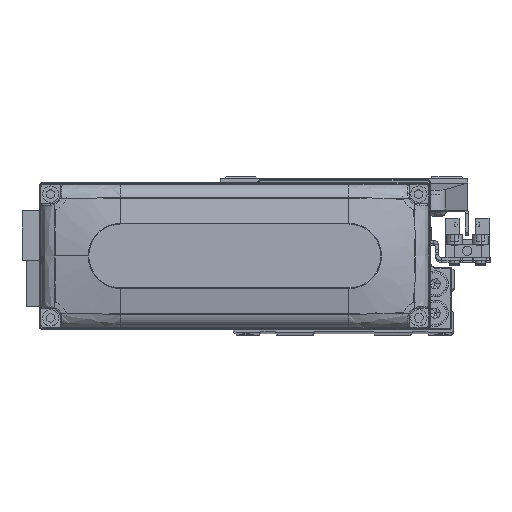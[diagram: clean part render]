
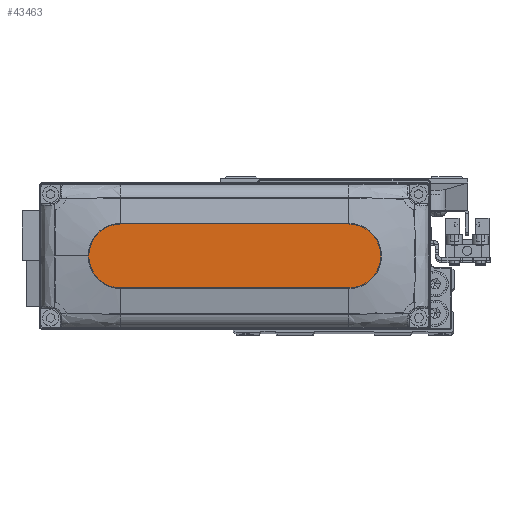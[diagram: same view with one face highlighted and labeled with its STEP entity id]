
A CAD part, top view. The second image highlights one B-rep face of the part: STEP entity #43463.
In plain terms, the highlighted planar face has unit normal (0, 0, 1).
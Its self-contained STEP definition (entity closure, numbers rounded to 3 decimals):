
#599 = EDGE_CURVE ( 'NONE', #39823, #23635, #17552, .T. ) ;
#1151 = VERTEX_POINT ( 'NONE', #40766 ) ;
#2132 = CIRCLE ( 'NONE', #26977, 10. ) ;
#2261 = CARTESIAN_POINT ( 'NONE',  ( -35., 0., 28. ) ) ;
#4608 = LINE ( 'NONE', #18223, #33029 ) ;
#4961 = DIRECTION ( 'NONE',  ( 1., 0., 0. ) ) ;
#8272 = PLANE ( 'NONE',  #23574 ) ;
#8767 = AXIS2_PLACEMENT_3D ( 'NONE', #12133, #25675, #39153 ) ;
#9347 = DIRECTION ( 'NONE',  ( 1., 0., 0. ) ) ;
#11351 = VECTOR ( 'NONE', #26567, 1000. ) ;
#11713 = EDGE_LOOP ( 'NONE', ( #26805, #28004, #35594, #33502, #32164 ) ) ;
#12126 = EDGE_CURVE ( 'NONE', #24757, #33272, #2132, .T. ) ;
#12133 = CARTESIAN_POINT ( 'NONE',  ( 35., 0., 28. ) ) ;
#13041 = CARTESIAN_POINT ( 'NONE',  ( -35., 10., 28. ) ) ;
#15861 = DIRECTION ( 'NONE',  ( 0., 0., 1. ) ) ;
#17550 = AXIS2_PLACEMENT_3D ( 'NONE', #26249, #39724, #9347 ) ;
#17552 = CIRCLE ( 'NONE', #17550, 10. ) ;
#18223 = CARTESIAN_POINT ( 'NONE',  ( -35., -10., 28. ) ) ;
#18266 = EDGE_CURVE ( 'NONE', #23635, #24757, #43366, .T. ) ;
#21856 = CARTESIAN_POINT ( 'NONE',  ( 0., 0., 28. ) ) ;
#23574 = AXIS2_PLACEMENT_3D ( 'NONE', #21856, #35357, #4961 ) ;
#23635 = VERTEX_POINT ( 'NONE', #38336 ) ;
#24187 = EDGE_CURVE ( 'NONE', #1151, #39823, #27936, .T. ) ;
#24653 = CARTESIAN_POINT ( 'NONE',  ( 45., 0., 28. ) ) ;
#24757 = VERTEX_POINT ( 'NONE', #40575 ) ;
#25675 = DIRECTION ( 'NONE',  ( 0., 0., 1. ) ) ;
#26249 = CARTESIAN_POINT ( 'NONE',  ( 35., 0., 28. ) ) ;
#26567 = DIRECTION ( 'NONE',  ( -1., 0., 0. ) ) ;
#26805 = ORIENTED_EDGE ( 'NONE', *, *, #18266, .T. ) ;
#26977 = AXIS2_PLACEMENT_3D ( 'NONE', #2261, #15861, #29339 ) ;
#27936 = CIRCLE ( 'NONE', #8767, 10. ) ;
#28004 = ORIENTED_EDGE ( 'NONE', *, *, #12126, .T. ) ;
#29339 = DIRECTION ( 'NONE',  ( 1., 0., 0. ) ) ;
#31709 = DIRECTION ( 'NONE',  ( 1., 0., 0. ) ) ;
#31780 = EDGE_CURVE ( 'NONE', #33272, #1151, #4608, .T. ) ;
#32164 = ORIENTED_EDGE ( 'NONE', *, *, #599, .T. ) ;
#33029 = VECTOR ( 'NONE', #31709, 1000. ) ;
#33272 = VERTEX_POINT ( 'NONE', #35933 ) ;
#33502 = ORIENTED_EDGE ( 'NONE', *, *, #24187, .T. ) ;
#35357 = DIRECTION ( 'NONE',  ( 0., 0., 1. ) ) ;
#35594 = ORIENTED_EDGE ( 'NONE', *, *, #31780, .T. ) ;
#35933 = CARTESIAN_POINT ( 'NONE',  ( -35., -10., 28. ) ) ;
#38336 = CARTESIAN_POINT ( 'NONE',  ( 35., 10., 28. ) ) ;
#38655 = FACE_OUTER_BOUND ( 'NONE', #11713, .T. ) ;
#39153 = DIRECTION ( 'NONE',  ( 1., 0., 0. ) ) ;
#39724 = DIRECTION ( 'NONE',  ( 0., 0., 1. ) ) ;
#39823 = VERTEX_POINT ( 'NONE', #24653 ) ;
#40575 = CARTESIAN_POINT ( 'NONE',  ( -35., 10., 28. ) ) ;
#40766 = CARTESIAN_POINT ( 'NONE',  ( 35., -10., 28. ) ) ;
#43366 = LINE ( 'NONE', #13041, #11351 ) ;
#43463 = ADVANCED_FACE ( 'NONE', ( #38655 ), #8272, .T. ) ;
